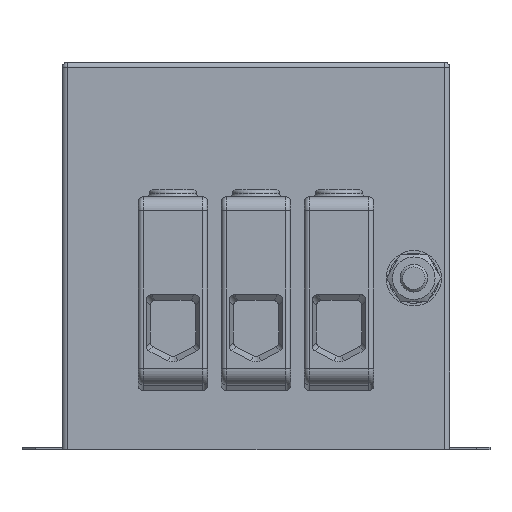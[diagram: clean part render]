
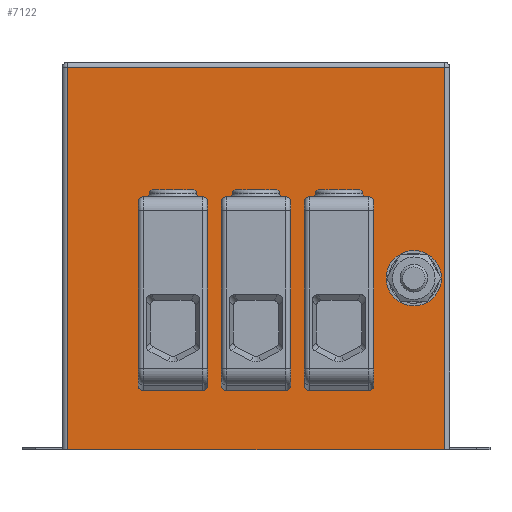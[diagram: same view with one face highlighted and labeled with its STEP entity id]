
A CAD part, left-side view. The second image highlights one B-rep face of the part: STEP entity #7122.
In plain terms, the highlighted planar face has unit normal (-1, 0, 0).
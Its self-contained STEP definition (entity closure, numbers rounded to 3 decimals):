
#121=CARTESIAN_POINT('',(-110.5,-57.,53.75));
#122=VERTEX_POINT('',#121);
#123=CARTESIAN_POINT('',(-110.5,-57.,62.));
#124=DIRECTION('',(1.0,0.0,0.0));
#125=DIRECTION('',(0.0,0.0,-1.0));
#126=AXIS2_PLACEMENT_3D('',#123,#124,#125);
#127=CIRCLE('',#126,8.25);
#128=EDGE_CURVE('',#122,#122,#127,.T.);
#2944=CARTESIAN_POINT('',(-110.5,-17.5,23.15));
#2945=VERTEX_POINT('',#2944);
#2946=CARTESIAN_POINT('',(-110.5,-17.5,89.65));
#2947=VERTEX_POINT('',#2946);
#2948=CARTESIAN_POINT('',(-110.5,-17.5,23.15));
#2949=DIRECTION('',(0.0,0.0,1.0));
#2950=VECTOR('',#2949,66.5);
#2951=LINE('',#2948,#2950);
#2952=EDGE_CURVE('',#2945,#2947,#2951,.T.);
#3746=CARTESIAN_POINT('',(-110.5,-19.25,21.4));
#3747=VERTEX_POINT('',#3746);
#3748=CARTESIAN_POINT('',(-110.5,-19.25,23.15));
#3749=DIRECTION('',(1.0,0.0,0.0));
#3750=DIRECTION('',(0.0,0.707,-0.707));
#3751=AXIS2_PLACEMENT_3D('',#3748,#3749,#3750);
#3752=CIRCLE('',#3751,1.75);
#3753=EDGE_CURVE('',#3747,#2945,#3752,.T.);
#3836=CARTESIAN_POINT('',(-110.5,-42.5,23.15));
#3837=VERTEX_POINT('',#3836);
#3838=CARTESIAN_POINT('',(-110.5,-40.75,21.4));
#3839=VERTEX_POINT('',#3838);
#3840=CARTESIAN_POINT('',(-110.5,-40.75,23.15));
#3841=DIRECTION('',(1.0,0.0,0.0));
#3842=DIRECTION('',(0.0,-0.707,-0.707));
#3843=AXIS2_PLACEMENT_3D('',#3840,#3841,#3842);
#3844=CIRCLE('',#3843,1.75);
#3845=EDGE_CURVE('',#3837,#3839,#3844,.T.);
#3970=CARTESIAN_POINT('',(-110.5,-42.5,89.65));
#3971=VERTEX_POINT('',#3970);
#3972=CARTESIAN_POINT('',(-110.5,-42.5,89.65));
#3973=DIRECTION('',(0.0,0.0,-1.0));
#3974=VECTOR('',#3973,66.5);
#3975=LINE('',#3972,#3974);
#3976=EDGE_CURVE('',#3971,#3837,#3975,.T.);
#4020=CARTESIAN_POINT('',(-110.5,-40.75,91.4));
#4021=VERTEX_POINT('',#4020);
#4022=CARTESIAN_POINT('',(-110.5,-40.75,89.65));
#4023=DIRECTION('',(1.0,0.0,0.0));
#4024=DIRECTION('',(0.0,-0.707,0.707));
#4025=AXIS2_PLACEMENT_3D('',#4022,#4023,#4024);
#4026=CIRCLE('',#4025,1.75);
#4027=EDGE_CURVE('',#4021,#3971,#4026,.T.);
#4157=CARTESIAN_POINT('',(-110.5,-19.25,91.4));
#4158=VERTEX_POINT('',#4157);
#4159=CARTESIAN_POINT('',(-110.5,-19.25,91.4));
#4160=DIRECTION('',(0.0,-1.0,0.0));
#4161=VECTOR('',#4160,21.5);
#4162=LINE('',#4159,#4161);
#4163=EDGE_CURVE('',#4158,#4021,#4162,.T.);
#4245=CARTESIAN_POINT('',(-110.5,-19.25,89.65));
#4246=DIRECTION('',(1.0,0.0,0.0));
#4247=DIRECTION('',(0.0,0.707,0.707));
#4248=AXIS2_PLACEMENT_3D('',#4245,#4246,#4247);
#4249=CIRCLE('',#4248,1.75);
#4250=EDGE_CURVE('',#2947,#4158,#4249,.T.);
#4313=CARTESIAN_POINT('',(-110.5,-40.75,21.4));
#4314=DIRECTION('',(0.0,1.0,0.0));
#4315=VECTOR('',#4314,21.5);
#4316=LINE('',#4313,#4315);
#4317=EDGE_CURVE('',#3839,#3747,#4316,.T.);
#4329=CARTESIAN_POINT('',(-110.5,12.5,23.15));
#4330=VERTEX_POINT('',#4329);
#4331=CARTESIAN_POINT('',(-110.5,12.5,89.65));
#4332=VERTEX_POINT('',#4331);
#4333=CARTESIAN_POINT('',(-110.5,12.5,23.15));
#4334=DIRECTION('',(0.0,0.0,1.0));
#4335=VECTOR('',#4334,66.5);
#4336=LINE('',#4333,#4335);
#4337=EDGE_CURVE('',#4330,#4332,#4336,.T.);
#5131=CARTESIAN_POINT('',(-110.5,10.75,21.4));
#5132=VERTEX_POINT('',#5131);
#5133=CARTESIAN_POINT('',(-110.5,10.75,23.15));
#5134=DIRECTION('',(1.0,0.0,0.0));
#5135=DIRECTION('',(0.0,0.707,-0.707));
#5136=AXIS2_PLACEMENT_3D('',#5133,#5134,#5135);
#5137=CIRCLE('',#5136,1.75);
#5138=EDGE_CURVE('',#5132,#4330,#5137,.T.);
#5221=CARTESIAN_POINT('',(-110.5,-12.5,23.15));
#5222=VERTEX_POINT('',#5221);
#5223=CARTESIAN_POINT('',(-110.5,-10.75,21.4));
#5224=VERTEX_POINT('',#5223);
#5225=CARTESIAN_POINT('',(-110.5,-10.75,23.15));
#5226=DIRECTION('',(1.0,0.0,0.0));
#5227=DIRECTION('',(0.0,-0.707,-0.707));
#5228=AXIS2_PLACEMENT_3D('',#5225,#5226,#5227);
#5229=CIRCLE('',#5228,1.75);
#5230=EDGE_CURVE('',#5222,#5224,#5229,.T.);
#5355=CARTESIAN_POINT('',(-110.5,-12.5,89.65));
#5356=VERTEX_POINT('',#5355);
#5357=CARTESIAN_POINT('',(-110.5,-12.5,89.65));
#5358=DIRECTION('',(0.0,0.0,-1.0));
#5359=VECTOR('',#5358,66.5);
#5360=LINE('',#5357,#5359);
#5361=EDGE_CURVE('',#5356,#5222,#5360,.T.);
#5405=CARTESIAN_POINT('',(-110.5,-10.75,91.4));
#5406=VERTEX_POINT('',#5405);
#5407=CARTESIAN_POINT('',(-110.5,-10.75,89.65));
#5408=DIRECTION('',(1.0,0.0,0.0));
#5409=DIRECTION('',(0.0,-0.707,0.707));
#5410=AXIS2_PLACEMENT_3D('',#5407,#5408,#5409);
#5411=CIRCLE('',#5410,1.75);
#5412=EDGE_CURVE('',#5406,#5356,#5411,.T.);
#5542=CARTESIAN_POINT('',(-110.5,10.75,91.4));
#5543=VERTEX_POINT('',#5542);
#5544=CARTESIAN_POINT('',(-110.5,10.75,91.4));
#5545=DIRECTION('',(0.0,-1.0,0.0));
#5546=VECTOR('',#5545,21.5);
#5547=LINE('',#5544,#5546);
#5548=EDGE_CURVE('',#5543,#5406,#5547,.T.);
#5630=CARTESIAN_POINT('',(-110.5,10.75,89.65));
#5631=DIRECTION('',(1.0,0.0,0.0));
#5632=DIRECTION('',(0.0,0.707,0.707));
#5633=AXIS2_PLACEMENT_3D('',#5630,#5631,#5632);
#5634=CIRCLE('',#5633,1.75);
#5635=EDGE_CURVE('',#4332,#5543,#5634,.T.);
#5698=CARTESIAN_POINT('',(-110.5,-10.75,21.4));
#5699=DIRECTION('',(0.0,1.0,0.0));
#5700=VECTOR('',#5699,21.5);
#5701=LINE('',#5698,#5700);
#5702=EDGE_CURVE('',#5224,#5132,#5701,.T.);
#6901=CARTESIAN_POINT('',(-110.5,-68.0,0.0));
#6902=VERTEX_POINT('',#6901);
#6910=CARTESIAN_POINT('',(-110.5,68.,0.0));
#6911=VERTEX_POINT('',#6910);
#6912=CARTESIAN_POINT('',(-110.5,-68.0,0.0));
#6913=DIRECTION('',(0.0,1.0,0.0));
#6914=VECTOR('',#6913,136.0);
#6915=LINE('',#6912,#6914);
#6916=EDGE_CURVE('',#6902,#6911,#6915,.T.);
#6999=CARTESIAN_POINT('',(-110.5,70.0,0.0));
#7000=DIRECTION('',(-1.0,0.0,0.0));
#7001=DIRECTION('',(0.0,-1.0,0.0));
#7002=AXIS2_PLACEMENT_3D('',#6999,#7000,#7001);
#7003=PLANE('',#7002);
#7004=CARTESIAN_POINT('',(-110.5,-68.0,138.0));
#7005=VERTEX_POINT('',#7004);
#7006=CARTESIAN_POINT('',(-110.5,-68.0,138.0));
#7007=DIRECTION('',(0.0,0.0,-1.0));
#7008=VECTOR('',#7007,138.0);
#7009=LINE('',#7006,#7008);
#7010=EDGE_CURVE('',#7005,#6902,#7009,.T.);
#7011=ORIENTED_EDGE('',*,*,#7010,.F.);
#7012=CARTESIAN_POINT('',(-110.5,68.,138.0));
#7013=VERTEX_POINT('',#7012);
#7014=CARTESIAN_POINT('',(-110.5,68.,138.0));
#7015=DIRECTION('',(0.0,-1.0,0.0));
#7016=VECTOR('',#7015,136.0);
#7017=LINE('',#7014,#7016);
#7018=EDGE_CURVE('',#7013,#7005,#7017,.T.);
#7019=ORIENTED_EDGE('',*,*,#7018,.F.);
#7020=CARTESIAN_POINT('',(-110.5,68.,0.0));
#7021=DIRECTION('',(0.0,0.0,1.0));
#7022=VECTOR('',#7021,138.0);
#7023=LINE('',#7020,#7022);
#7024=EDGE_CURVE('',#6911,#7013,#7023,.T.);
#7025=ORIENTED_EDGE('',*,*,#7024,.F.);
#7026=ORIENTED_EDGE('',*,*,#6916,.F.);
#7027=EDGE_LOOP('',(#7011,#7019,#7025,#7026));
#7028=FACE_OUTER_BOUND('',#7027,.T.);
#7029=ORIENTED_EDGE('',*,*,#128,.T.);
#7030=EDGE_LOOP('',(#7029));
#7031=FACE_BOUND('',#7030,.T.);
#7032=ORIENTED_EDGE('',*,*,#2952,.T.);
#7033=ORIENTED_EDGE('',*,*,#4250,.T.);
#7034=ORIENTED_EDGE('',*,*,#4163,.T.);
#7035=ORIENTED_EDGE('',*,*,#4027,.T.);
#7036=ORIENTED_EDGE('',*,*,#3976,.T.);
#7037=ORIENTED_EDGE('',*,*,#3845,.T.);
#7038=ORIENTED_EDGE('',*,*,#4317,.T.);
#7039=ORIENTED_EDGE('',*,*,#3753,.T.);
#7040=EDGE_LOOP('',(#7032,#7033,#7034,#7035,#7036,#7037,#7038,#7039));
#7041=FACE_BOUND('',#7040,.T.);
#7042=ORIENTED_EDGE('',*,*,#4337,.T.);
#7043=ORIENTED_EDGE('',*,*,#5635,.T.);
#7044=ORIENTED_EDGE('',*,*,#5548,.T.);
#7045=ORIENTED_EDGE('',*,*,#5412,.T.);
#7046=ORIENTED_EDGE('',*,*,#5361,.T.);
#7047=ORIENTED_EDGE('',*,*,#5230,.T.);
#7048=ORIENTED_EDGE('',*,*,#5702,.T.);
#7049=ORIENTED_EDGE('',*,*,#5138,.T.);
#7050=EDGE_LOOP('',(#7042,#7043,#7044,#7045,#7046,#7047,#7048,#7049));
#7051=FACE_BOUND('',#7050,.T.);
#7052=CARTESIAN_POINT('',(-110.5,17.5,89.65));
#7053=VERTEX_POINT('',#7052);
#7054=CARTESIAN_POINT('',(-110.5,17.5,23.15));
#7055=VERTEX_POINT('',#7054);
#7056=CARTESIAN_POINT('',(-110.5,17.5,89.65));
#7057=DIRECTION('',(0.0,0.0,-1.0));
#7058=VECTOR('',#7057,66.5);
#7059=LINE('',#7056,#7058);
#7060=EDGE_CURVE('',#7053,#7055,#7059,.T.);
#7061=ORIENTED_EDGE('',*,*,#7060,.T.);
#7062=CARTESIAN_POINT('',(-110.5,19.25,21.4));
#7063=VERTEX_POINT('',#7062);
#7064=CARTESIAN_POINT('',(-110.5,19.25,23.15));
#7065=DIRECTION('',(1.0,0.0,0.0));
#7066=DIRECTION('',(0.0,-0.707,-0.707));
#7067=AXIS2_PLACEMENT_3D('',#7064,#7065,#7066);
#7068=CIRCLE('',#7067,1.75);
#7069=EDGE_CURVE('',#7055,#7063,#7068,.T.);
#7070=ORIENTED_EDGE('',*,*,#7069,.T.);
#7071=CARTESIAN_POINT('',(-110.5,40.75,21.4));
#7072=VERTEX_POINT('',#7071);
#7073=CARTESIAN_POINT('',(-110.5,19.25,21.4));
#7074=DIRECTION('',(0.0,1.0,0.0));
#7075=VECTOR('',#7074,21.5);
#7076=LINE('',#7073,#7075);
#7077=EDGE_CURVE('',#7063,#7072,#7076,.T.);
#7078=ORIENTED_EDGE('',*,*,#7077,.T.);
#7079=CARTESIAN_POINT('',(-110.5,42.5,23.15));
#7080=VERTEX_POINT('',#7079);
#7081=CARTESIAN_POINT('',(-110.5,40.75,23.15));
#7082=DIRECTION('',(1.0,0.0,0.0));
#7083=DIRECTION('',(0.0,0.707,-0.707));
#7084=AXIS2_PLACEMENT_3D('',#7081,#7082,#7083);
#7085=CIRCLE('',#7084,1.75);
#7086=EDGE_CURVE('',#7072,#7080,#7085,.T.);
#7087=ORIENTED_EDGE('',*,*,#7086,.T.);
#7088=CARTESIAN_POINT('',(-110.5,42.5,89.65));
#7089=VERTEX_POINT('',#7088);
#7090=CARTESIAN_POINT('',(-110.5,42.5,23.15));
#7091=DIRECTION('',(0.0,0.0,1.0));
#7092=VECTOR('',#7091,66.5);
#7093=LINE('',#7090,#7092);
#7094=EDGE_CURVE('',#7080,#7089,#7093,.T.);
#7095=ORIENTED_EDGE('',*,*,#7094,.T.);
#7096=CARTESIAN_POINT('',(-110.5,40.75,91.4));
#7097=VERTEX_POINT('',#7096);
#7098=CARTESIAN_POINT('',(-110.5,40.75,89.65));
#7099=DIRECTION('',(1.0,0.0,0.0));
#7100=DIRECTION('',(0.0,0.707,0.707));
#7101=AXIS2_PLACEMENT_3D('',#7098,#7099,#7100);
#7102=CIRCLE('',#7101,1.75);
#7103=EDGE_CURVE('',#7089,#7097,#7102,.T.);
#7104=ORIENTED_EDGE('',*,*,#7103,.T.);
#7105=CARTESIAN_POINT('',(-110.5,19.25,91.4));
#7106=VERTEX_POINT('',#7105);
#7107=CARTESIAN_POINT('',(-110.5,40.75,91.4));
#7108=DIRECTION('',(0.0,-1.0,0.0));
#7109=VECTOR('',#7108,21.5);
#7110=LINE('',#7107,#7109);
#7111=EDGE_CURVE('',#7097,#7106,#7110,.T.);
#7112=ORIENTED_EDGE('',*,*,#7111,.T.);
#7113=CARTESIAN_POINT('',(-110.5,19.25,89.65));
#7114=DIRECTION('',(1.0,0.0,0.0));
#7115=DIRECTION('',(0.0,-0.707,0.707));
#7116=AXIS2_PLACEMENT_3D('',#7113,#7114,#7115);
#7117=CIRCLE('',#7116,1.75);
#7118=EDGE_CURVE('',#7106,#7053,#7117,.T.);
#7119=ORIENTED_EDGE('',*,*,#7118,.T.);
#7120=EDGE_LOOP('',(#7061,#7070,#7078,#7087,#7095,#7104,#7112,#7119));
#7121=FACE_BOUND('',#7120,.T.);
#7122=ADVANCED_FACE('',(#7028,#7031,#7041,#7051,#7121),#7003,.T.);
